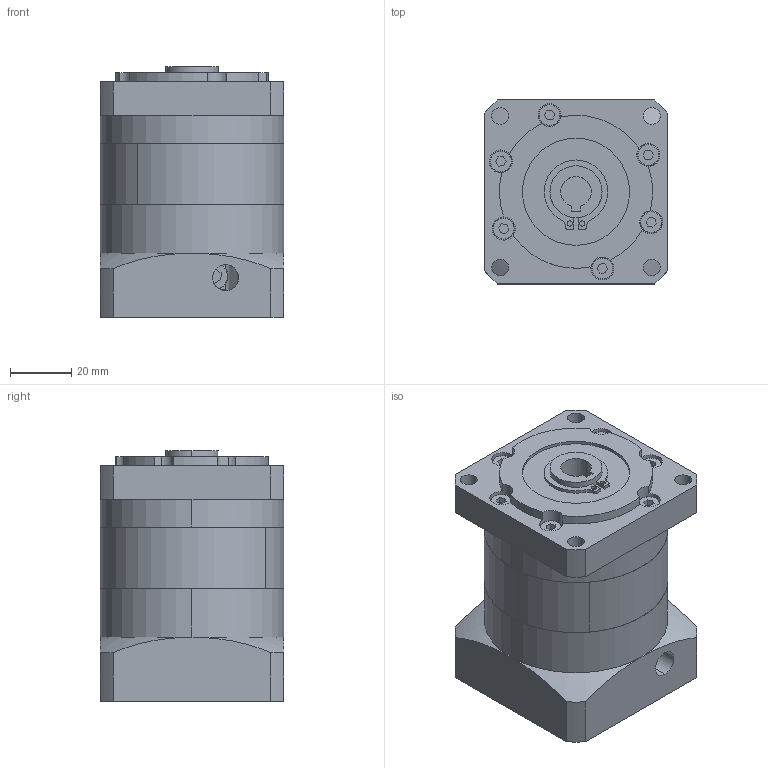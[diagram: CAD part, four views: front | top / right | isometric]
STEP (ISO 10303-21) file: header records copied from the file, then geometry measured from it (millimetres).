
FILE_DESCRIPTION (( 'STEP AP203' ), '1' );
FILE_NAME ('PBF060-L1-8-38.1-66.7.STEP', '2022-07-21T02:58:35', ( 'Windows User' ), ( 'P R C' ), 'SwSTEP 2.0', 'SolidWorks 2016', '' );
FILE_SCHEMA (( 'CONFIG_CONTROL_DESIGN' ));
Length unit declared in the file: millimetre
Products named in the file (7): PBF060 上蓋版-孔10输出_D1-70 D2-5.5 D3-14 D4-17 D5-50 L1-30 L2-35 L3-3 A1-60 S1-3 S2-20 S3-5 S4-18 B-5 H-16 C-M5 标准; PBF060 狟屳唳-8_D6-60 D7-14 梓袧; PBF060-窣諉啣-38.1-M4-66.7_1; GB／T276-94深沟球轴承61905-2RZ; PBF060-L1-8-38.1-66.7; 囀鞠褒蹟佪 M5℅16; PBF060 κｳﾝﾈｦ_ﾒｻｼｶﾄﾚｳﾝﾈｦ
Assembly tree (6 placements, depth 2):
  PBF060-L1-8-38.1-66.7
    囀鞠褒蹟佪 M5℅16
    PBF060 κｳﾝﾈｦ_ﾒｻｼｶﾄﾚｳﾝﾈｦ
    PBF060 上蓋版-孔10输出_D1-70 D2-5.5 D3-14 D4-17 D5-50 L1-30 L2-35 L3-3 A1-60 S1-3 S2-20 S3-5 S4-18 B-5 H-16 C-M5 标准
    PBF060 狟屳唳-8_D6-60 D7-14 梓袧
    PBF060-窣諉啣-38.1-M4-66.7_1
    GB／T276-94深沟球轴承61905-2RZ
Bounding box: 60 x 60 x 82 mm (x, y, z)
Volume: 214414.3 mm3; surface area: 61565.7 mm2
Topology: 6 solids, 6 shells, 498 faces, 1405 edges, 915 vertices
Faces by surface type: plane 162, cylinder 161, sphere 91, torus 70, cone 14
Entity records: 19869 total; most frequent: CARTESIAN_POINT 6454, ORIENTED_EDGE 2716, DIRECTION 2654, EDGE_CURVE 1358, AXIS2_PLACEMENT_3D 1133, VERTEX_POINT 889, CIRCLE 626, EDGE_LOOP 595
